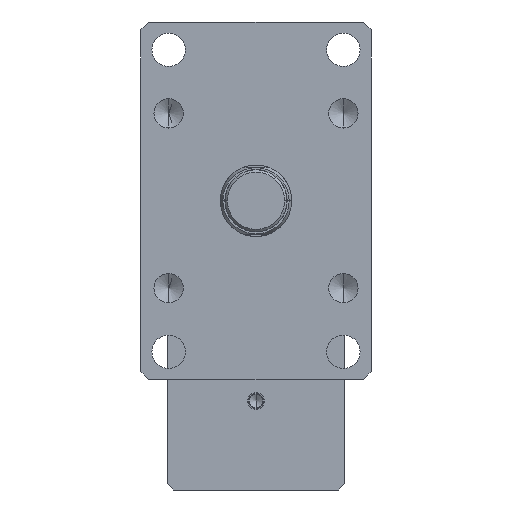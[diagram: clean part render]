
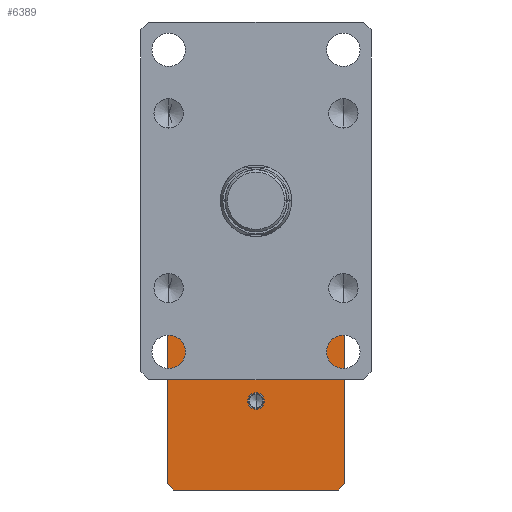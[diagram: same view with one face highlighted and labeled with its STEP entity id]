
A CAD part, left-side view. The second image highlights one B-rep face of the part: STEP entity #6389.
In plain terms, the highlighted planar face has unit normal (-1, 0, 0).
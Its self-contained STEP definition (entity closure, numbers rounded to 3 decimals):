
#67 = CARTESIAN_POINT ( 'NONE',  ( 425., 52., -70. ) ) ;
#497 = ORIENTED_EDGE ( 'NONE', *, *, #7495, .F. ) ;
#630 = VECTOR ( 'NONE', #10786, 1000. ) ;
#739 = DIRECTION ( 'NONE',  ( 0., 1., 0. ) ) ;
#884 = ORIENTED_EDGE ( 'NONE', *, *, #9821, .F. ) ;
#1086 = CARTESIAN_POINT ( 'NONE',  ( 425., -56., -182. ) ) ;
#1172 = VERTEX_POINT ( 'NONE', #12799 ) ;
#1256 = VECTOR ( 'NONE', #9913, 1000. ) ;
#1265 = DIRECTION ( 'NONE',  ( 0., -0.707, 0.707 ) ) ;
#1426 = CARTESIAN_POINT ( 'NONE',  ( 425., 52., -182. ) ) ;
#1456 = CARTESIAN_POINT ( 'NONE',  ( 425., 0., -120.857 ) ) ;
#1515 = ORIENTED_EDGE ( 'NONE', *, *, #11580, .T. ) ;
#1605 = DIRECTION ( 'NONE',  ( 0., -0.707, -0.707 ) ) ;
#1788 = CARTESIAN_POINT ( 'NONE',  ( 425., 56., -182. ) ) ;
#1810 = EDGE_CURVE ( 'NONE', #4951, #4249, #7141, .T. ) ;
#2147 = ORIENTED_EDGE ( 'NONE', *, *, #3847, .T. ) ;
#2322 = EDGE_LOOP ( 'NONE', ( #497, #12597 ) ) ;
#2347 = FACE_BOUND ( 'NONE', #2322, .T. ) ;
#2641 = EDGE_CURVE ( 'NONE', #5541, #4753, #11917, .T. ) ;
#2690 = DIRECTION ( 'NONE',  ( -1., 0., 0. ) ) ;
#2705 = CIRCLE ( 'NONE', #9576, 5.143 ) ;
#2907 = EDGE_CURVE ( 'NONE', #4951, #12429, #6495, .T. ) ;
#2988 = PLANE ( 'NONE',  #3090 ) ;
#3090 = AXIS2_PLACEMENT_3D ( 'NONE', #10836, #4985, #11888 ) ;
#3173 = CARTESIAN_POINT ( 'NONE',  ( 425., -56., -74. ) ) ;
#3576 = CARTESIAN_POINT ( 'NONE',  ( 425., 52., -182. ) ) ;
#3636 = CARTESIAN_POINT ( 'NONE',  ( 425., -56., -74. ) ) ;
#3847 = EDGE_CURVE ( 'NONE', #4753, #1172, #10510, .T. ) ;
#3886 = CARTESIAN_POINT ( 'NONE',  ( 425., -56., -182. ) ) ;
#4075 = DIRECTION ( 'NONE',  ( -1., 0., 0. ) ) ;
#4249 = VERTEX_POINT ( 'NONE', #12561 ) ;
#4505 = VECTOR ( 'NONE', #1265, 1000. ) ;
#4519 = VECTOR ( 'NONE', #8672, 1000. ) ;
#4636 = CARTESIAN_POINT ( 'NONE',  ( 425., -52., -70. ) ) ;
#4753 = VERTEX_POINT ( 'NONE', #67 ) ;
#4951 = VERTEX_POINT ( 'NONE', #5275 ) ;
#4973 = FACE_OUTER_BOUND ( 'NONE', #7596, .T. ) ;
#4985 = DIRECTION ( 'NONE',  ( 1., 0., 0. ) ) ;
#5275 = CARTESIAN_POINT ( 'NONE',  ( 425., -52., -182. ) ) ;
#5541 = VERTEX_POINT ( 'NONE', #4636 ) ;
#5679 = DIRECTION ( 'NONE',  ( 0., 0.707, -0.707 ) ) ;
#5839 = ORIENTED_EDGE ( 'NONE', *, *, #6698, .T. ) ;
#6181 = CARTESIAN_POINT ( 'NONE',  ( 425., -52., -182. ) ) ;
#6354 = VECTOR ( 'NONE', #739, 1000. ) ;
#6376 = LINE ( 'NONE', #3636, #8361 ) ;
#6389 = ADVANCED_FACE ( 'NONE', ( #2347, #4973 ), #2988, .F. ) ;
#6495 = LINE ( 'NONE', #1086, #1256 ) ;
#6698 = EDGE_CURVE ( 'NONE', #7964, #12429, #9726, .T. ) ;
#7120 = VECTOR ( 'NONE', #1605, 1000. ) ;
#7141 = LINE ( 'NONE', #6181, #4505 ) ;
#7150 = LINE ( 'NONE', #1788, #4519 ) ;
#7244 = VERTEX_POINT ( 'NONE', #3173 ) ;
#7495 = EDGE_CURVE ( 'NONE', #10167, #10632, #2705, .T. ) ;
#7596 = EDGE_LOOP ( 'NONE', ( #1515, #11029, #7745, #2147, #884, #5839, #8837, #12009 ) ) ;
#7745 = ORIENTED_EDGE ( 'NONE', *, *, #2641, .T. ) ;
#7868 = VECTOR ( 'NONE', #5679, 1000. ) ;
#7964 = VERTEX_POINT ( 'NONE', #10647 ) ;
#8361 = VECTOR ( 'NONE', #12538, 1000. ) ;
#8519 = AXIS2_PLACEMENT_3D ( 'NONE', #9964, #4075, #10968 ) ;
#8571 = CARTESIAN_POINT ( 'NONE',  ( 425., 0., -126. ) ) ;
#8581 = CARTESIAN_POINT ( 'NONE',  ( 425., 56., -74. ) ) ;
#8672 = DIRECTION ( 'NONE',  ( 0., 0., 1. ) ) ;
#8684 = CIRCLE ( 'NONE', #8519, 5.143 ) ;
#8837 = ORIENTED_EDGE ( 'NONE', *, *, #2907, .F. ) ;
#9105 = EDGE_CURVE ( 'NONE', #10632, #10167, #8684, .T. ) ;
#9562 = DIRECTION ( 'NONE',  ( 0., 0., 1. ) ) ;
#9576 = AXIS2_PLACEMENT_3D ( 'NONE', #8571, #2690, #9562 ) ;
#9601 = CARTESIAN_POINT ( 'NONE',  ( 425., -56., -70. ) ) ;
#9726 = LINE ( 'NONE', #3576, #7120 ) ;
#9821 = EDGE_CURVE ( 'NONE', #7964, #1172, #7150, .T. ) ;
#9913 = DIRECTION ( 'NONE',  ( 0., 1., 0. ) ) ;
#9964 = CARTESIAN_POINT ( 'NONE',  ( 425., 0., -126. ) ) ;
#10167 = VERTEX_POINT ( 'NONE', #1456 ) ;
#10204 = EDGE_CURVE ( 'NONE', #7244, #5541, #6376, .T. ) ;
#10510 = LINE ( 'NONE', #8581, #7868 ) ;
#10632 = VERTEX_POINT ( 'NONE', #11595 ) ;
#10647 = CARTESIAN_POINT ( 'NONE',  ( 425., 56., -178. ) ) ;
#10786 = DIRECTION ( 'NONE',  ( 0., 0., 1. ) ) ;
#10836 = CARTESIAN_POINT ( 'NONE',  ( 425., -56., -182. ) ) ;
#10968 = DIRECTION ( 'NONE',  ( 0., 0., 1. ) ) ;
#11029 = ORIENTED_EDGE ( 'NONE', *, *, #10204, .T. ) ;
#11112 = LINE ( 'NONE', #3886, #630 ) ;
#11580 = EDGE_CURVE ( 'NONE', #4249, #7244, #11112, .T. ) ;
#11595 = CARTESIAN_POINT ( 'NONE',  ( 425., 0., -131.143 ) ) ;
#11888 = DIRECTION ( 'NONE',  ( 0., 0., -1. ) ) ;
#11917 = LINE ( 'NONE', #9601, #6354 ) ;
#12009 = ORIENTED_EDGE ( 'NONE', *, *, #1810, .T. ) ;
#12429 = VERTEX_POINT ( 'NONE', #1426 ) ;
#12538 = DIRECTION ( 'NONE',  ( 0., 0.707, 0.707 ) ) ;
#12561 = CARTESIAN_POINT ( 'NONE',  ( 425., -56., -178. ) ) ;
#12597 = ORIENTED_EDGE ( 'NONE', *, *, #9105, .F. ) ;
#12799 = CARTESIAN_POINT ( 'NONE',  ( 425., 56., -74. ) ) ;
